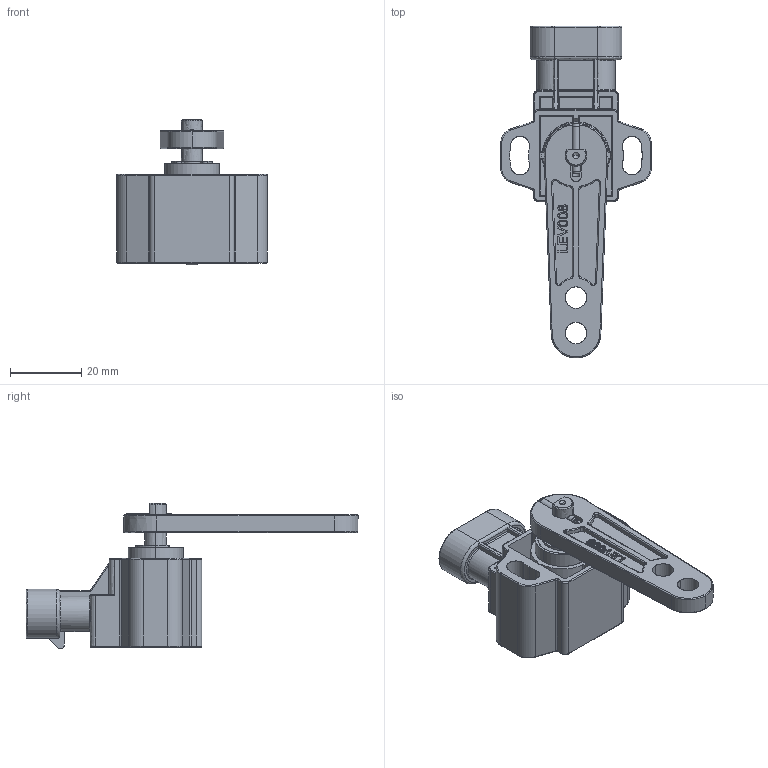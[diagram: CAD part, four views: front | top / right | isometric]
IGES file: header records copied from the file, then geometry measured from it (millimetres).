
Start section: SolidWorks IGES file using analytic representation for surfaces
Global section: file name: \\srv4gefran\dir-cat\Disegni Catalogo\Mobile\GR3P\GR3P 32\3D\Solidworks 2024\GR3PA S3E2SL xxx xxxx B0.IGS; native system: SolidWorks 2024; preprocessor: SolidWorks 2024; author: Loda-w1; date: 241219.154448; units: millimetre
Bounding box: 42.5 x 93.5 x 41.07 mm (x, y, z)
Surface area: 15337.2 mm2 (no closed solid volume)
Topology: 0 solids, 0 shells, 720 faces, 6867 edges, 6838 vertices
Faces by surface type: bspline 398, revolution 322
